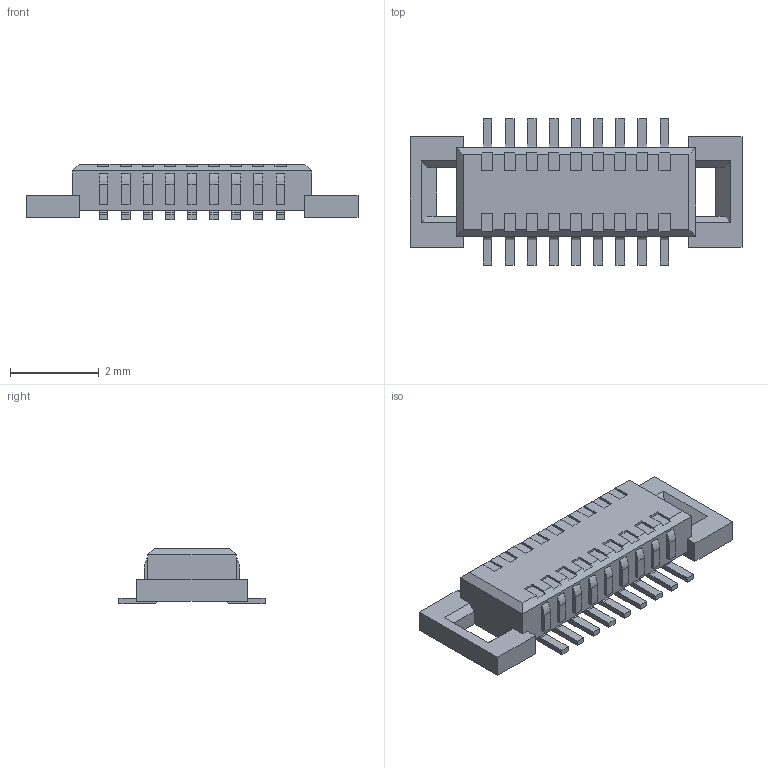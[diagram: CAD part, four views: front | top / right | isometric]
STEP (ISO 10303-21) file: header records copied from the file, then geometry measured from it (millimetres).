
FILE_DESCRIPTION((''),'2;1');
FILE_NAME('BTB-AXK6F18345_PRT','2008-06-30T',('GRA'),(''),'PRO/ENGINEER BY PARAMETRIC TECHNOLOGY CORPORATION, 2006170','PRO/ENGINEER BY PARAMETRIC TECHNOLOGY CORPORATION, 2006170','');
FILE_SCHEMA(('CONFIG_CONTROL_DESIGN'));
Length unit declared in the file: millimetre
Products named in the file (1): BTB-AXK6F18345_PRT
Bounding box: 7.5 x 3.3 x 1.25 mm (x, y, z)
Volume: 13.9 mm3; surface area: 66.2 mm2
Topology: 1 solids, 1 shells, 394 faces, 1070 edges, 712 vertices
Faces by surface type: plane 286, cylinder 108
Entity records: 12404 total; most frequent: CARTESIAN_POINT 2176, ORIENTED_EDGE 2140, DIRECTION 2074, EDGE_CURVE 1070, VECTOR 854, LINE 854, VERTEX_POINT 712, AXIS2_PLACEMENT_3D 610
